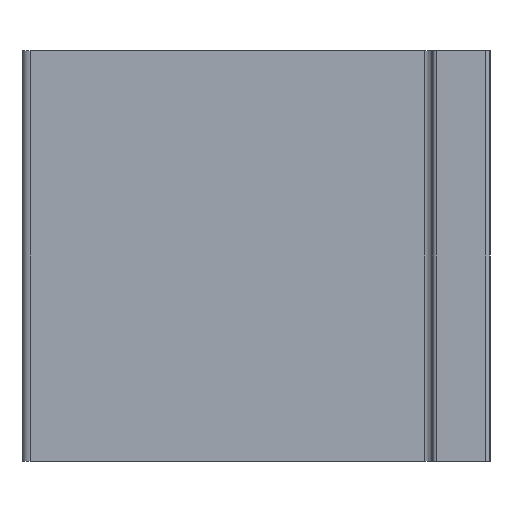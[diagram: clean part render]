
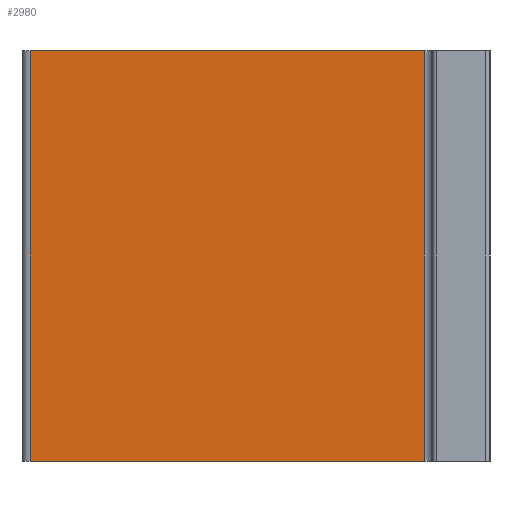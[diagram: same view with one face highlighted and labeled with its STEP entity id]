
A CAD part, left-side view. The second image highlights one B-rep face of the part: STEP entity #2980.
In plain terms, the highlighted planar face has unit normal (-1, 0.002, 0).
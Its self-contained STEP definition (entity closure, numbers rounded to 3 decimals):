
#95 = ORIENTED_EDGE ( 'NONE', *, *, #394, .T. ) ;
#394 = EDGE_CURVE ( 'NONE', #2826, #2702, #1898, .T. ) ;
#579 = ORIENTED_EDGE ( 'NONE', *, *, #3062, .F. ) ;
#704 = FACE_OUTER_BOUND ( 'NONE', #2939, .T. ) ;
#705 = PLANE ( 'NONE',  #706 ) ;
#706 = AXIS2_PLACEMENT_3D ( 'NONE', #707, #708, #709 ) ;
#707 = CARTESIAN_POINT ( 'NONE',  ( -115., 56.002, 50. ) ) ;
#708 = DIRECTION ( 'NONE',  ( 1., -0.002, 0. ) ) ;
#709 = DIRECTION ( 'NONE',  ( 0.002, 1., 0. ) ) ;
#913 = EDGE_CURVE ( 'NONE', #2889, #2826, #4402, .T. ) ;
#1112 = CARTESIAN_POINT ( 'NONE',  ( -115.098, 7.998, 50. ) ) ;
#1268 = LINE ( 'NONE', #1269, #1270 ) ;
#1269 = CARTESIAN_POINT ( 'NONE',  ( -115.098, 7.998, 50. ) ) ;
#1270 = VECTOR ( 'NONE', #1271, 1000. ) ;
#1271 = DIRECTION ( 'NONE',  ( 0., 0., -1. ) ) ;
#1381 = LINE ( 'NONE', #1382, #1383 ) ;
#1382 = CARTESIAN_POINT ( 'NONE',  ( -115., 56.002, 50. ) ) ;
#1383 = VECTOR ( 'NONE', #1384, 1000. ) ;
#1384 = DIRECTION ( 'NONE',  ( -0.002, -1., 0. ) ) ;
#1898 = LINE ( 'NONE', #1899, #1900 ) ;
#1899 = CARTESIAN_POINT ( 'NONE',  ( -115., 56.002, 0. ) ) ;
#1900 = VECTOR ( 'NONE', #1901, 1000. ) ;
#1901 = DIRECTION ( 'NONE',  ( -0.002, -1., 0. ) ) ;
#1908 = CARTESIAN_POINT ( 'NONE',  ( -115.098, 7.998, 0. ) ) ;
#2169 = EDGE_CURVE ( 'NONE', #2889, #3039, #1381, .T. ) ;
#2489 = ORIENTED_EDGE ( 'NONE', *, *, #2169, .F. ) ;
#2702 = VERTEX_POINT ( 'NONE', #1908 ) ;
#2753 = ORIENTED_EDGE ( 'NONE', *, *, #913, .T. ) ;
#2826 = VERTEX_POINT ( 'NONE', #3596 ) ;
#2889 = VERTEX_POINT ( 'NONE', #3907 ) ;
#2939 = EDGE_LOOP ( 'NONE', ( #95, #579, #2489, #2753 ) ) ;
#2980 = ADVANCED_FACE ( 'NONE', ( #704 ), #705, .F. ) ;
#3039 = VERTEX_POINT ( 'NONE', #1112 ) ;
#3062 = EDGE_CURVE ( 'NONE', #3039, #2702, #1268, .T. ) ;
#3596 = CARTESIAN_POINT ( 'NONE',  ( -115., 56.002, 0. ) ) ;
#3907 = CARTESIAN_POINT ( 'NONE',  ( -115., 56.002, 50. ) ) ;
#4402 = LINE ( 'NONE', #4403, #4404 ) ;
#4403 = CARTESIAN_POINT ( 'NONE',  ( -115., 56.002, 50. ) ) ;
#4404 = VECTOR ( 'NONE', #4405, 1000. ) ;
#4405 = DIRECTION ( 'NONE',  ( 0., 0., -1. ) ) ;
